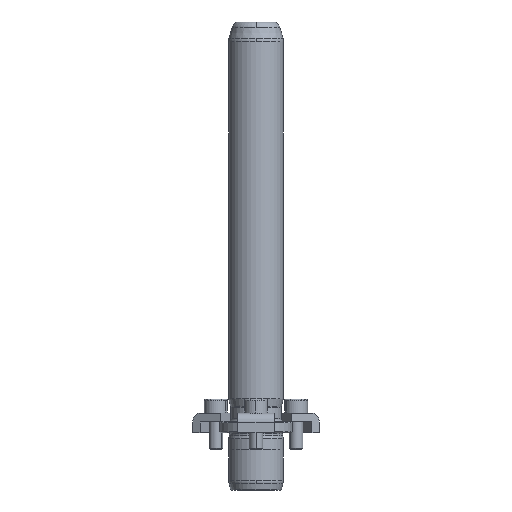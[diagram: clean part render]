
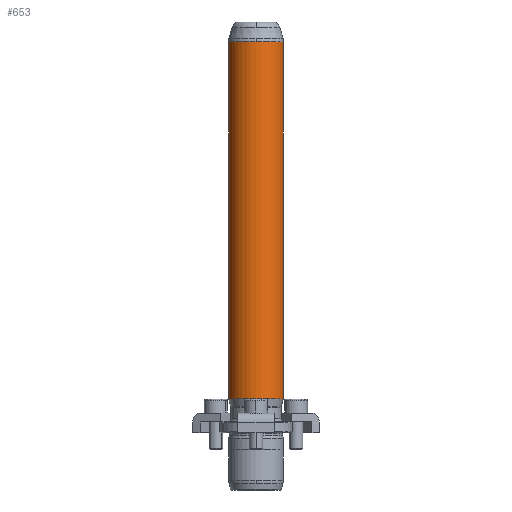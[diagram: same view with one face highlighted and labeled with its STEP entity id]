
A CAD part, front view. The second image highlights one B-rep face of the part: STEP entity #653.
In plain terms, the highlighted cylindrical face has radius 12 mm (diameter 24 mm), a partial arc.
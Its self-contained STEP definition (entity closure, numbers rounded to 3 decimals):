
#566=CARTESIAN_POINT('',(0.0,-12.,171.342));
#567=VERTEX_POINT('',#566);
#594=CARTESIAN_POINT('',(-12.0,0.,171.342));
#595=VERTEX_POINT('',#594);
#603=CARTESIAN_POINT('',(0.0,0.,171.342));
#604=DIRECTION('',(0.0,0.0,1.0));
#605=DIRECTION('',(1.0,0.0,0.0));
#606=AXIS2_PLACEMENT_3D('',#603,#604,#605);
#607=CIRCLE('',#606,12.0);
#608=EDGE_CURVE('',#595,#567,#607,.T.);
#613=CARTESIAN_POINT('',(0.0,0.,93.171));
#614=DIRECTION('',(0.0,0.,1.0));
#615=DIRECTION('',(1.0,0.0,0.0));
#616=AXIS2_PLACEMENT_3D('',#613,#614,#615);
#617=CYLINDRICAL_SURFACE('',#616,12.0);
#618=CARTESIAN_POINT('',(12.0,0.,171.342));
#619=VERTEX_POINT('',#618);
#620=CARTESIAN_POINT('',(12.0,0.,15.0));
#621=VERTEX_POINT('',#620);
#622=CARTESIAN_POINT('',(12.0,0.,171.342));
#623=DIRECTION('',(0.0,0.0,-1.0));
#624=VECTOR('',#623,156.342);
#625=LINE('',#622,#624);
#626=EDGE_CURVE('',#619,#621,#625,.T.);
#627=ORIENTED_EDGE('',*,*,#626,.F.);
#628=CARTESIAN_POINT('',(0.0,0.,171.342));
#629=DIRECTION('',(0.0,0.0,1.0));
#630=DIRECTION('',(1.0,0.0,0.0));
#631=AXIS2_PLACEMENT_3D('',#628,#629,#630);
#632=CIRCLE('',#631,12.0);
#633=EDGE_CURVE('',#567,#619,#632,.T.);
#634=ORIENTED_EDGE('',*,*,#633,.F.);
#635=ORIENTED_EDGE('',*,*,#608,.F.);
#636=CARTESIAN_POINT('',(-12.,0.,15.0));
#637=VERTEX_POINT('',#636);
#638=CARTESIAN_POINT('',(-12.0,0.,171.342));
#639=DIRECTION('',(0.0,0.0,-1.0));
#640=VECTOR('',#639,156.342);
#641=LINE('',#638,#640);
#642=EDGE_CURVE('',#595,#637,#641,.T.);
#643=ORIENTED_EDGE('',*,*,#642,.T.);
#644=CARTESIAN_POINT('',(0.0,0.,15.0));
#645=DIRECTION('',(0.0,0.0,1.0));
#646=DIRECTION('',(1.0,0.0,0.0));
#647=AXIS2_PLACEMENT_3D('',#644,#645,#646);
#648=CIRCLE('',#647,12.0);
#649=EDGE_CURVE('',#637,#621,#648,.T.);
#650=ORIENTED_EDGE('',*,*,#649,.T.);
#651=EDGE_LOOP('',(#627,#634,#635,#643,#650));
#652=FACE_OUTER_BOUND('',#651,.T.);
#653=ADVANCED_FACE('',(#652),#617,.T.);
